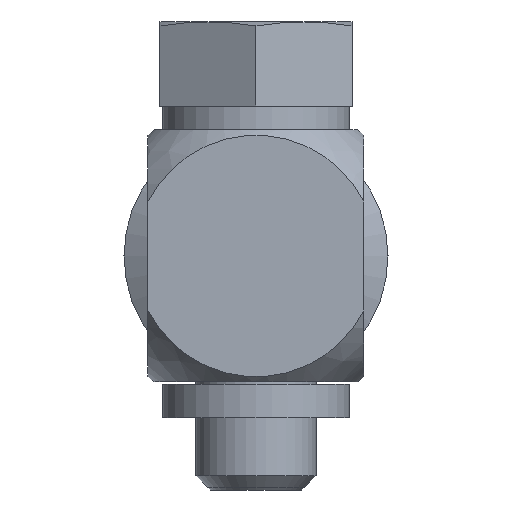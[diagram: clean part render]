
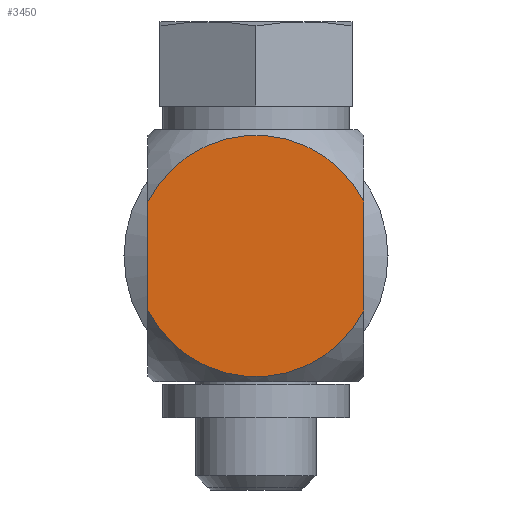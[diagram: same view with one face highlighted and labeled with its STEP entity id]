
A CAD part, left-side view. The second image highlights one B-rep face of the part: STEP entity #3450.
In plain terms, the highlighted planar face has unit normal (-1, 0, 0).
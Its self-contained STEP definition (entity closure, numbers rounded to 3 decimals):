
#3450=ADVANCED_FACE('', (#3460), #3470, .T.);
#10900=AXIS2_PLACEMENT_3D('Ax2Pl3d', #10910, #10920, #10930);
#10940=AXIS2_PLACEMENT_3D('Ax2Pl3d', #10950, #10960, #10970);
#10980=AXIS2_PLACEMENT_3D('Ax2Pl3d', #10990, #11000, #11010);
#47200=CARTESIAN_POINT('', (-0.211,3.376,6.892)
);
#47210=CARTESIAN_POINT('', (-0.211,3.376,2.392)
);
#47220=CARTESIAN_POINT('', (-0.211,3.376,2.392)
);
#10910=CARTESIAN_POINT('HicPkt', (-0.211,7.876,
9.674));
#47230=CARTESIAN_POINT('', (-0.211,12.376,6.892)
);
#47240=CARTESIAN_POINT('', (-0.211,12.376,2.392)
);
#47250=CARTESIAN_POINT('', (-0.211,12.376,6.892)
);
#10950=CARTESIAN_POINT('HicPkt', (-0.211,7.876,
4.642));
#10990=CARTESIAN_POINT('HicPkt', (-0.211,7.876,
4.642));
#48120=CIRCLE('Circle', #10940, 5.031);
#48130=CIRCLE('Circle', #10980, 5.031);
#52500=DIRECTION('', (0.,0.,-1.));
#10920=DIRECTION('Axis', (-1.,0.,0.)
);
#10930=DIRECTION('RefDirection', (0.,
0.,-1.));
#52510=DIRECTION('', (0.,0.,1.));
#10960=DIRECTION('Axis', (-1.,0.,0.)
);
#10970=DIRECTION('RefDirection', (0.,
0.,-1.));
#11000=DIRECTION('Axis', (-1.,0.,0.)
);
#11010=DIRECTION('RefDirection', (0.,
0.,-1.));
#54940=EDGE_CURVE('', #54930, #54950, #54960, .T.);
#54980=EDGE_CURVE('', #54990, #55000, #55010, .T.);
#55020=EDGE_CURVE('', #54990, #54950, #48120, .T.);
#55030=EDGE_CURVE('', #54930, #55000, #48130, .T.);
#58990=EDGE_LOOP('Edge_loop', (#59000,#59010,#59020,#59030));
#3460=FACE_OUTER_BOUND('Face_outer_bound', #58990, .T.);
#54960=LINE('Line', #47210, #60270);
#55010=LINE('Line', #47230, #60280);
#59000=ORIENTED_EDGE('', *, *, #54980, .F.);
#59010=ORIENTED_EDGE('', *, *, #55020, .T.);
#59020=ORIENTED_EDGE('', *, *, #54940, .F.);
#59030=ORIENTED_EDGE('', *, *, #55030, .T.);
#3470=PLANE('Plane', #10900);
#60270=VECTOR('', #52500, 4.5);
#60280=VECTOR('', #52510, 4.5);
#54930=VERTEX_POINT('', #47200);
#54950=VERTEX_POINT('', #47220);
#54990=VERTEX_POINT('', #47240);
#55000=VERTEX_POINT('', #47250);
